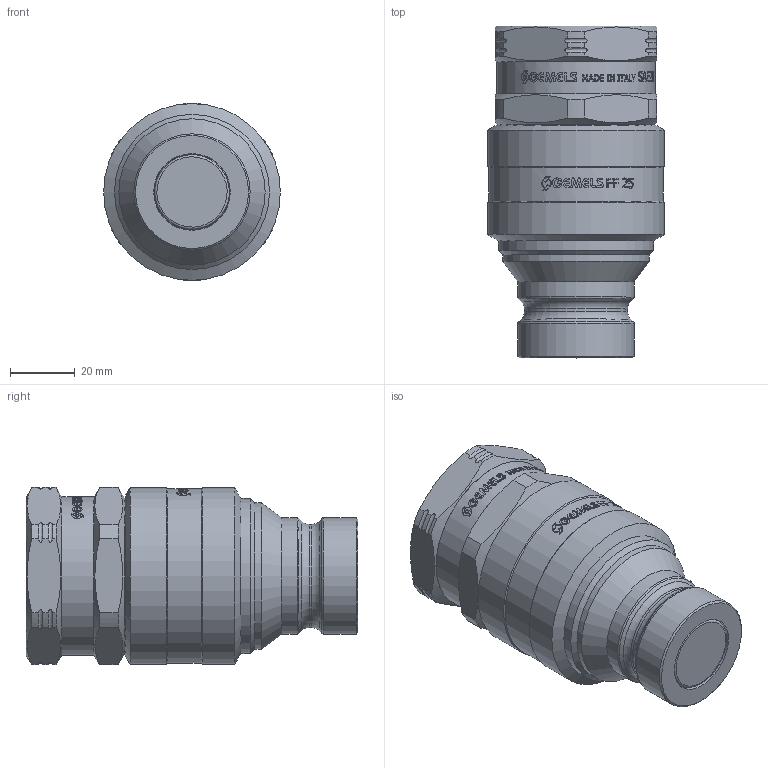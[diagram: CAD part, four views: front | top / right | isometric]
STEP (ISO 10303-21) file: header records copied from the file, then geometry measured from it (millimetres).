
FILE_DESCRIPTION(/* description */ (''),/* implementation_level */ '2;1');
FILE_NAME(/* name */ 'NC05S060000.stp',/* time_stamp */ '2024-11-19T13:04:54+01:00',/* author */ ('thomas.belotti'),/* organization */ (''),/* preprocessor_version */ 'ST-DEVELOPER v20',/* originating_system */ 'Autodesk Inventor 2024',/* authorisation */ '');
FILE_SCHEMA (('AUTOMOTIVE_DESIGN { 1 0 10303 214 3 1 1 }'));
Length unit declared in the file: millimetre
Products named in the file (1): Parte23
Bounding box: 54.7 x 102.7 x 54.99 mm (x, y, z)
Volume: 157987.1 mm3; surface area: 24773 mm2
Topology: 2 solids, 2 shells, 1126 faces, 3208 edges, 2132 vertices
Faces by surface type: bspline 724, plane 275, cylinder 90, torus 19, cone 18
Full cylindrical faces by diameter (mm): 23.55 x1, 23.7 x1, 31.9 x1, 36 x2, 38.989 x2, 39 x1, 40 x1, 45.3 x1, 46 x1, 46.3 x1, 48 x1, 49 x1, 54 x1, 54.7 x2
Entity records: 49060 total; most frequent: CARTESIAN_POINT 23336, ORIENTED_EDGE 6416, EDGE_CURVE 3208, DIRECTION 2893, VERTEX_POINT 2132, B_SPLINE_CURVE_WITH_KNOTS 1518, LINE 1245, VECTOR 1245
